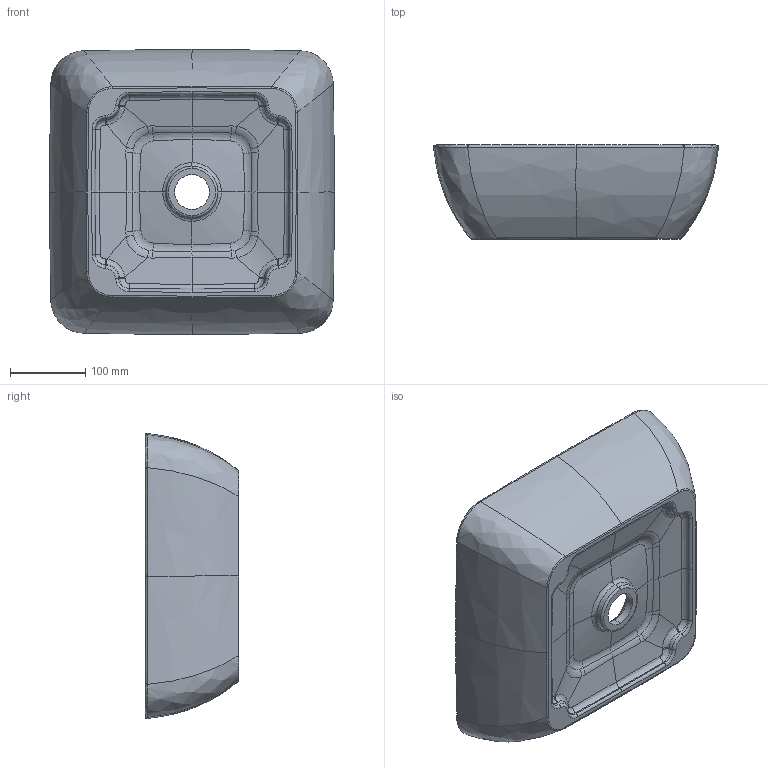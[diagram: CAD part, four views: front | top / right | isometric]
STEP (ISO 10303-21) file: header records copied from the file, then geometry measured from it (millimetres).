
FILE_DESCRIPTION((''),'2;1');
FILE_NAME('UM_KLEO4_01','2018-03-05T',('AX110'),(''),'CREO PARAMETRIC BY PTC INC, 2016260','CREO PARAMETRIC BY PTC INC, 2016260','');
FILE_SCHEMA(('CONFIG_CONTROL_DESIGN'));
Length unit declared in the file: millimetre
Products named in the file (1): UM_KLEO4_01
Bounding box: 379.54 x 125 x 379.54 mm (x, y, z)
Volume: 4499772.4 mm3; surface area: 457517.9 mm2
Topology: 1 solids, 1 shells, 196 faces, 444 edges, 250 vertices
Faces by surface type: bspline 176, torus 8, cone 8, plane 2, cylinder 2
Entity records: 15886 total; most frequent: CARTESIAN_POINT 12660, ORIENTED_EDGE 888, EDGE_CURVE 444, DIRECTION 322, B_SPLINE_CURVE_WITH_KNOTS 292, VERTEX_POINT 250, EDGE_LOOP 198, FACE_OUTER_BOUND 196
